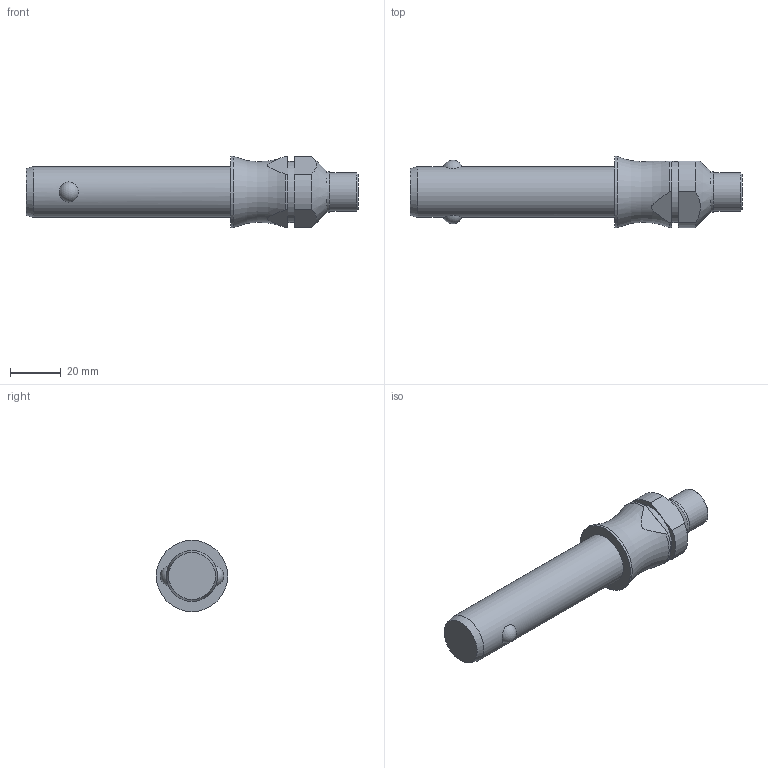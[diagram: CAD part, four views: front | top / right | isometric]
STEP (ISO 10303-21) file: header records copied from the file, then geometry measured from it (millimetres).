
FILE_DESCRIPTION( ( 'STEP AP203' ), '1' );
FILE_NAME( 'C:/Temp/Ganter_Step_05_03_2020/data/3_1/gn113_3/Stainless Steel-Ball lock pin GN 113.3-20-60 (deactivated).stp', '2020-03-12T08:19:02', ( 'License CC BY-ND 4.0' ), ( 'CADENAS' ), ' ', 'PARTsolutions', ' ' );
FILE_SCHEMA( ( 'CONFIG_CONTROL_DESIGN' ) );
Length unit declared in the file: millimetre
Products named in the file (1): _Stainless Steel-Ball lock pin GN 113.3-20-60 (deactivated)
Bounding box: 130.6 x 28 x 28 mm (x, y, z)
Volume: 46090.7 mm3; surface area: 9822 mm2
Topology: 1 solids, 1 shells, 29 faces, 65 edges, 42 vertices
Faces by surface type: plane 11, cylinder 11, cone 4, sphere 2, torus 1
Full cylindrical faces by diameter (mm): 15 x1, 16 x1, 20 x1, 24 x1, 28 x1
Entity records: 1010 total; most frequent: CARTESIAN_POINT 380, DIRECTION 126, ORIENTED_EDGE 100, AXIS2_PLACEMENT_3D 54, EDGE_CURVE 50, EDGE_LOOP 44, VERTEX_POINT 38, FACE_OUTER_BOUND 35
